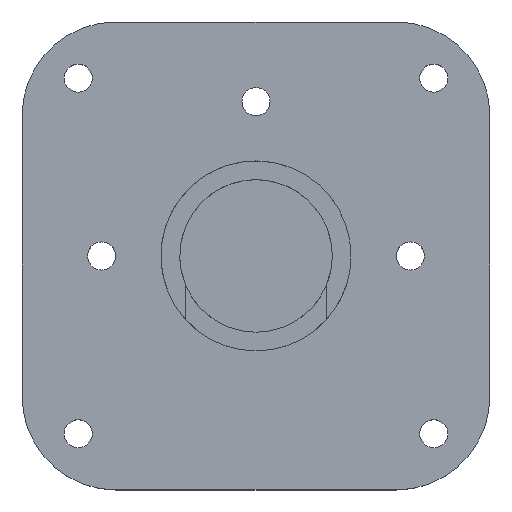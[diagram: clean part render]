
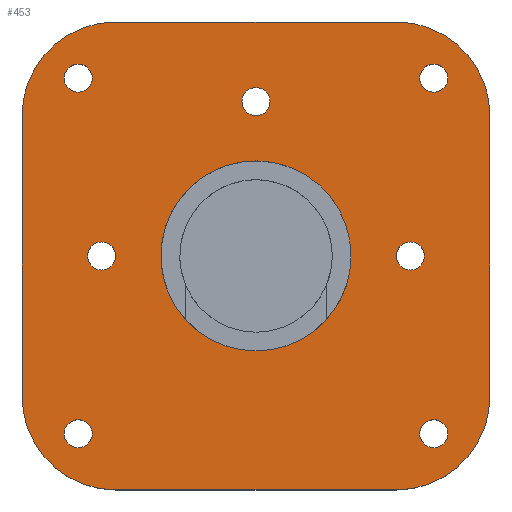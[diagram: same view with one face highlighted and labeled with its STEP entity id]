
A CAD part, top view. The second image highlights one B-rep face of the part: STEP entity #453.
In plain terms, the highlighted planar face has unit normal (0, 0, 1).
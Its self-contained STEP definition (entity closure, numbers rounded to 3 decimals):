
#15=FACE_BOUND('',#75,.T.);
#16=FACE_BOUND('',#76,.T.);
#17=FACE_BOUND('',#77,.T.);
#18=FACE_BOUND('',#78,.T.);
#19=FACE_BOUND('',#79,.T.);
#20=FACE_BOUND('',#80,.T.);
#21=FACE_BOUND('',#81,.T.);
#22=FACE_BOUND('',#82,.T.);
#34=PLANE('',#505);
#50=FACE_OUTER_BOUND('',#74,.T.);
#74=EDGE_LOOP('',(#351,#352,#353,#354,#355,#356,#357,#358));
#75=EDGE_LOOP('',(#359));
#76=EDGE_LOOP('',(#360));
#77=EDGE_LOOP('',(#361));
#78=EDGE_LOOP('',(#362));
#79=EDGE_LOOP('',(#363));
#80=EDGE_LOOP('',(#364));
#81=EDGE_LOOP('',(#365));
#82=EDGE_LOOP('',(#366));
#117=LINE('',#739,#150);
#118=LINE('',#743,#151);
#119=LINE('',#747,#152);
#120=LINE('',#750,#153);
#150=VECTOR('',#601,10.);
#151=VECTOR('',#604,10.);
#152=VECTOR('',#607,10.);
#153=VECTOR('',#610,10.);
#170=CIRCLE('',#483,1.5);
#172=CIRCLE('',#486,1.5);
#174=CIRCLE('',#489,1.5);
#183=CIRCLE('',#504,10.15);
#184=CIRCLE('',#506,10.);
#185=CIRCLE('',#507,10.);
#186=CIRCLE('',#508,10.);
#187=CIRCLE('',#509,10.);
#188=CIRCLE('',#510,1.5);
#189=CIRCLE('',#511,1.5);
#190=CIRCLE('',#512,1.5);
#191=CIRCLE('',#513,1.5);
#200=VERTEX_POINT('',#681);
#202=VERTEX_POINT('',#687);
#204=VERTEX_POINT('',#693);
#217=VERTEX_POINT('',#731);
#218=VERTEX_POINT('',#735);
#219=VERTEX_POINT('',#736);
#220=VERTEX_POINT('',#738);
#221=VERTEX_POINT('',#740);
#222=VERTEX_POINT('',#742);
#223=VERTEX_POINT('',#744);
#224=VERTEX_POINT('',#746);
#225=VERTEX_POINT('',#748);
#226=VERTEX_POINT('',#751);
#227=VERTEX_POINT('',#753);
#228=VERTEX_POINT('',#755);
#229=VERTEX_POINT('',#757);
#242=EDGE_CURVE('',#200,#200,#170,.T.);
#245=EDGE_CURVE('',#202,#202,#172,.T.);
#248=EDGE_CURVE('',#204,#204,#174,.T.);
#268=EDGE_CURVE('',#217,#217,#183,.T.);
#269=EDGE_CURVE('',#218,#219,#184,.T.);
#270=EDGE_CURVE('',#218,#220,#117,.T.);
#271=EDGE_CURVE('',#221,#220,#185,.T.);
#272=EDGE_CURVE('',#221,#222,#118,.T.);
#273=EDGE_CURVE('',#223,#222,#186,.T.);
#274=EDGE_CURVE('',#223,#224,#119,.T.);
#275=EDGE_CURVE('',#225,#224,#187,.T.);
#276=EDGE_CURVE('',#225,#219,#120,.T.);
#277=EDGE_CURVE('',#226,#226,#188,.T.);
#278=EDGE_CURVE('',#227,#227,#189,.T.);
#279=EDGE_CURVE('',#228,#228,#190,.T.);
#280=EDGE_CURVE('',#229,#229,#191,.T.);
#351=ORIENTED_EDGE('',*,*,#269,.F.);
#352=ORIENTED_EDGE('',*,*,#270,.T.);
#353=ORIENTED_EDGE('',*,*,#271,.F.);
#354=ORIENTED_EDGE('',*,*,#272,.T.);
#355=ORIENTED_EDGE('',*,*,#273,.F.);
#356=ORIENTED_EDGE('',*,*,#274,.T.);
#357=ORIENTED_EDGE('',*,*,#275,.F.);
#358=ORIENTED_EDGE('',*,*,#276,.T.);
#359=ORIENTED_EDGE('',*,*,#242,.T.);
#360=ORIENTED_EDGE('',*,*,#245,.T.);
#361=ORIENTED_EDGE('',*,*,#248,.T.);
#362=ORIENTED_EDGE('',*,*,#277,.T.);
#363=ORIENTED_EDGE('',*,*,#278,.T.);
#364=ORIENTED_EDGE('',*,*,#279,.T.);
#365=ORIENTED_EDGE('',*,*,#280,.T.);
#366=ORIENTED_EDGE('',*,*,#268,.T.);
#453=ADVANCED_FACE('',(#50,#15,#16,#17,#18,#19,#20,#21,#22),#34,.T.);
#483=AXIS2_PLACEMENT_3D('',#682,#540,#541);
#486=AXIS2_PLACEMENT_3D('',#688,#547,#548);
#489=AXIS2_PLACEMENT_3D('',#694,#554,#555);
#504=AXIS2_PLACEMENT_3D('',#733,#595,#596);
#505=AXIS2_PLACEMENT_3D('',#734,#597,#598);
#506=AXIS2_PLACEMENT_3D('',#737,#599,#600);
#507=AXIS2_PLACEMENT_3D('',#741,#602,#603);
#508=AXIS2_PLACEMENT_3D('',#745,#605,#606);
#509=AXIS2_PLACEMENT_3D('',#749,#608,#609);
#510=AXIS2_PLACEMENT_3D('',#752,#611,#612);
#511=AXIS2_PLACEMENT_3D('',#754,#613,#614);
#512=AXIS2_PLACEMENT_3D('',#756,#615,#616);
#513=AXIS2_PLACEMENT_3D('',#758,#617,#618);
#540=DIRECTION('center_axis',(0.,0.,-1.));
#541=DIRECTION('ref_axis',(-1.,0.,0.));
#547=DIRECTION('center_axis',(0.,0.,-1.));
#548=DIRECTION('ref_axis',(-1.,0.,0.));
#554=DIRECTION('center_axis',(0.,0.,-1.));
#555=DIRECTION('ref_axis',(-1.,0.,0.));
#595=DIRECTION('center_axis',(0.,0.,-1.));
#596=DIRECTION('ref_axis',(-1.,0.,0.));
#597=DIRECTION('center_axis',(0.,0.,1.));
#598=DIRECTION('ref_axis',(1.,0.,0.));
#599=DIRECTION('center_axis',(0.,0.,-1.));
#600=DIRECTION('ref_axis',(0.707,0.707,0.));
#601=DIRECTION('',(-1.,0.,0.));
#602=DIRECTION('center_axis',(0.,0.,-1.));
#603=DIRECTION('ref_axis',(-0.707,0.707,0.));
#604=DIRECTION('',(0.,-1.,0.));
#605=DIRECTION('center_axis',(0.,0.,-1.));
#606=DIRECTION('ref_axis',(-0.707,-0.707,0.));
#607=DIRECTION('',(1.,0.,0.));
#608=DIRECTION('center_axis',(0.,0.,-1.));
#609=DIRECTION('ref_axis',(0.707,-0.707,0.));
#610=DIRECTION('',(0.,1.,0.));
#611=DIRECTION('center_axis',(0.,0.,-1.));
#612=DIRECTION('ref_axis',(-1.,0.,0.));
#613=DIRECTION('center_axis',(0.,0.,-1.));
#614=DIRECTION('ref_axis',(-1.,0.,0.));
#615=DIRECTION('center_axis',(0.,0.,-1.));
#616=DIRECTION('ref_axis',(-1.,0.,0.));
#617=DIRECTION('center_axis',(0.,0.,-1.));
#618=DIRECTION('ref_axis',(-1.,0.,0.));
#681=CARTESIAN_POINT('',(1.5,16.5,3.));
#682=CARTESIAN_POINT('Origin',(0.,16.5,3.));
#687=CARTESIAN_POINT('',(-15.,0.,3.));
#688=CARTESIAN_POINT('Origin',(-16.5,0.,3.));
#693=CARTESIAN_POINT('',(18.,0.,3.));
#694=CARTESIAN_POINT('Origin',(16.5,0.,3.));
#731=CARTESIAN_POINT('',(10.15,0.,3.));
#733=CARTESIAN_POINT('Origin',(0.,0.,3.));
#734=CARTESIAN_POINT('Origin',(0.,0.,3.));
#735=CARTESIAN_POINT('',(15.,25.,3.));
#736=CARTESIAN_POINT('',(25.,15.,3.));
#737=CARTESIAN_POINT('Origin',(15.,15.,3.));
#738=CARTESIAN_POINT('',(-15.,25.,3.));
#739=CARTESIAN_POINT('',(-25.,25.,3.));
#740=CARTESIAN_POINT('',(-25.,15.,3.));
#741=CARTESIAN_POINT('Origin',(-15.,15.,3.));
#742=CARTESIAN_POINT('',(-25.,-15.,3.));
#743=CARTESIAN_POINT('',(-25.,-25.,3.));
#744=CARTESIAN_POINT('',(-15.,-25.,3.));
#745=CARTESIAN_POINT('Origin',(-15.,-15.,3.));
#746=CARTESIAN_POINT('',(15.,-25.,3.));
#747=CARTESIAN_POINT('',(25.,-25.,3.));
#748=CARTESIAN_POINT('',(25.,-15.,3.));
#749=CARTESIAN_POINT('Origin',(15.,-15.,3.));
#750=CARTESIAN_POINT('',(25.,25.,3.));
#751=CARTESIAN_POINT('',(-17.5,19.,3.));
#752=CARTESIAN_POINT('Origin',(-19.,19.,3.));
#753=CARTESIAN_POINT('',(20.5,19.,3.));
#754=CARTESIAN_POINT('Origin',(19.,19.,3.));
#755=CARTESIAN_POINT('',(-17.5,-19.,3.));
#756=CARTESIAN_POINT('Origin',(-19.,-19.,3.));
#757=CARTESIAN_POINT('',(20.5,-19.,3.));
#758=CARTESIAN_POINT('Origin',(19.,-19.,3.));
